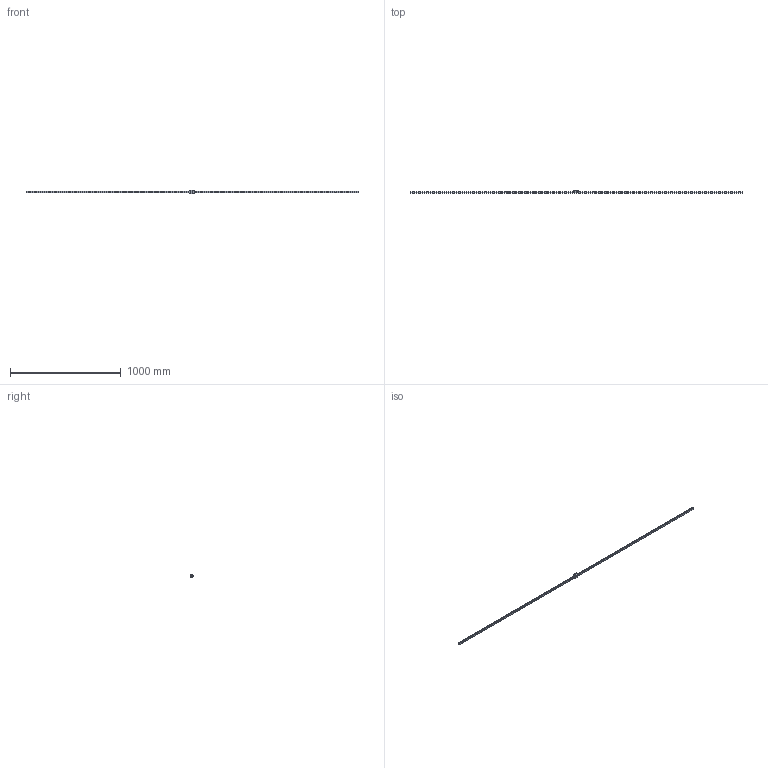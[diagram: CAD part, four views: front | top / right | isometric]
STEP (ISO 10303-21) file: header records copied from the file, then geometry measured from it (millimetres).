
FILE_DESCRIPTION(/* description */ ('STEP AP214'),/* implementation_level */ '2;1');
FILE_NAME(/* name */ 'HDR15SV1SS-3000L_G30_0_PB107_1478-5_0_0_01',/* time_stamp */ '2023-06-30T12:57:20+02:00',/* author */ ('License CC BY-ND 4.0'),/* organization */ ('CADENAS'),/* preprocessor_version */ 'ST-DEVELOPER v19.3',/* originating_system */ 'PARTsolutions',/* authorisation */ ' ');
FILE_SCHEMA (('AUTOMOTIVE_DESIGN {1 0 10303 214 3 1 1}'));
Length unit declared in the file: millimetre
Products named in the file (4): HDR15SV1SS-3000L_G30_0_PB107_1478-5_0_0_01; hsr_ftht_PB107_grease_nipple_joint; HDR15SVSSPB1071 Slider; HDR15SV1300030 Rail
Assembly tree (3 placements, depth 2):
  HDR15SV1SS-3000L_G30_0_PB107_1478-5_0_0_01
    hsr_ftht_PB107_grease_nipple_joint
    HDR15SVSSPB1071 Slider
    HDR15SV1300030 Rail
Bounding box: 3000 x 24 x 34 mm (x, y, z)
Volume: 597763.1 mm3; surface area: 215752 mm2
Topology: 3 solids, 3 shells, 326 faces, 776 edges, 513 vertices
Faces by surface type: cylinder 166, plane 153, cone 6, sphere 1
Full cylindrical faces by diameter (mm): 2.9 x4, 3 x1, 3.242 x3, 3.5 x3, 4.5 x51, 7.5 x50
Entity records: 9195 total; most frequent: DIRECTION 1646, CARTESIAN_POINT 1491, ORIENTED_EDGE 1302, AXIS2_PLACEMENT_3D 665, EDGE_CURVE 651, FACE_BOUND 605, EDGE_LOOP 602, VERTEX_POINT 510
